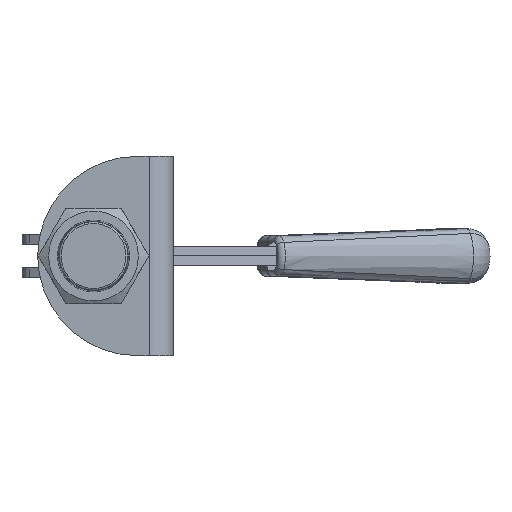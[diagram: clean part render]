
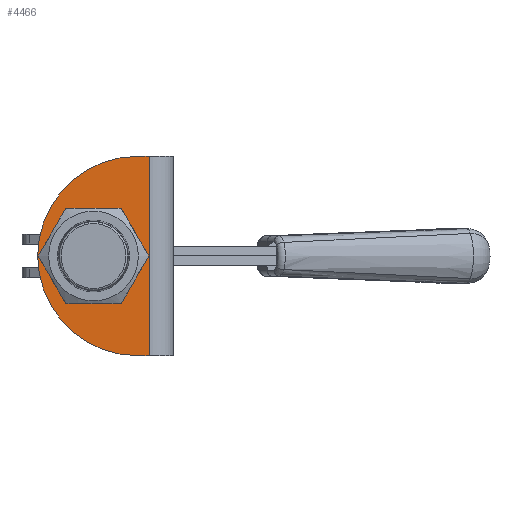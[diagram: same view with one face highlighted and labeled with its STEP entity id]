
A CAD part, left-side view. The second image highlights one B-rep face of the part: STEP entity #4466.
In plain terms, the highlighted planar face has unit normal (-1, 0, 0).
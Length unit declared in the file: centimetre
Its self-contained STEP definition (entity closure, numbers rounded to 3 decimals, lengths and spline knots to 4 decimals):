
#373=LINE($,#8631,#599);
#381=LINE($,#8651,#607);
#383=LINE($,#8656,#609);
#599=VECTOR($,#6261,1.);
#607=VECTOR($,#6277,1.);
#609=VECTOR($,#6285,1.);
#826=PLANE($,#5040);
#1008=FACE_BOUND($,#1696,.T.);
#1262=FACE_OUTER_BOUND($,#1695,.T.);
#1695=EDGE_LOOP($,(#4085,#4086,#4087,#4088));
#1696=EDGE_LOOP($,(#4089));
#1957=CIRCLE($,#5037,0.81);
#1958=CIRCLE($,#5039,2.5);
#2353=VERTEX_POINT($,#8628);
#2354=VERTEX_POINT($,#8630);
#2361=VERTEX_POINT($,#8648);
#2362=VERTEX_POINT($,#8650);
#2364=VERTEX_POINT($,#8662);
#2926=EDGE_CURVE($,#2353,#2354,#373,.T.);
#2936=EDGE_CURVE($,#2361,#2362,#381,.T.);
#2939=EDGE_CURVE($,#2353,#2362,#383,.T.);
#2942=EDGE_CURVE($,#2364,#2364,#1957,.T.);
#2943=EDGE_CURVE($,#2354,#2361,#1958,.T.);
#4085=ORIENTED_EDGE($,*,*,#2939,.T.);
#4086=ORIENTED_EDGE($,*,*,#2936,.F.);
#4087=ORIENTED_EDGE($,*,*,#2943,.F.);
#4088=ORIENTED_EDGE($,*,*,#2926,.F.);
#4089=ORIENTED_EDGE($,*,*,#2942,.T.);
#4466=ADVANCED_FACE($,(#1262,#1008),#826,.F.);
#5037=AXIS2_PLACEMENT_3D($,#8663,#6294,#6295);
#5039=AXIS2_PLACEMENT_3D($,#8665,#6298,#6299);
#5040=AXIS2_PLACEMENT_3D($,#8666,#6300,#6301);
#6261=DIRECTION($,(0.,1.,0.));
#6277=DIRECTION($,(0.,-1.,0.));
#6285=DIRECTION($,(0.,0.,1.));
#6294=DIRECTION('center_axis',(1.,0.,0.));
#6295=DIRECTION('ref_axis',(0.,-1.,0.));
#6298=DIRECTION('center_axis',(1.,0.,0.));
#6299=DIRECTION('ref_axis',(0.,0.,
-1.));
#6300=DIRECTION('center_axis',(1.,0.,0.));
#6301=DIRECTION('ref_axis',(0.,0.,-1.));
#8628=CARTESIAN_POINT('',(0.,-0.1,-2.5));
#8630=CARTESIAN_POINT('',(0.,0.2,-2.5));
#8631=CARTESIAN_POINT($,(0.,-0.7,-2.5));
#8648=CARTESIAN_POINT('',(0.,0.2,2.5));
#8650=CARTESIAN_POINT('',(0.,-0.1,2.5));
#8651=CARTESIAN_POINT($,(0.,0.2,2.5));
#8656=CARTESIAN_POINT($,(0.,-0.1,-1.25));
#8662=CARTESIAN_POINT('',(0.,2.11,0.));
#8663=CARTESIAN_POINT('Origin',(0.,1.3,0.));
#8665=CARTESIAN_POINT('Origin',(0.,0.2,0.));
#8666=CARTESIAN_POINT('Origin',(0.,0.6067,
0.));
